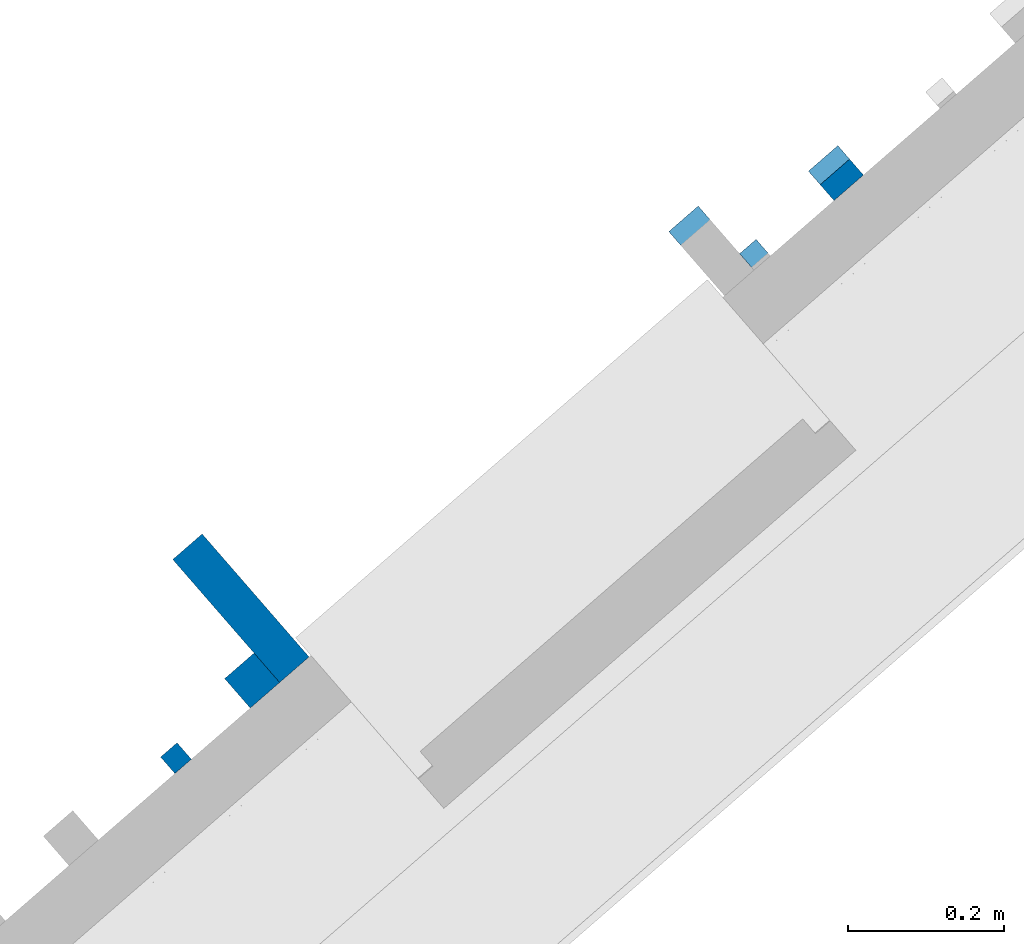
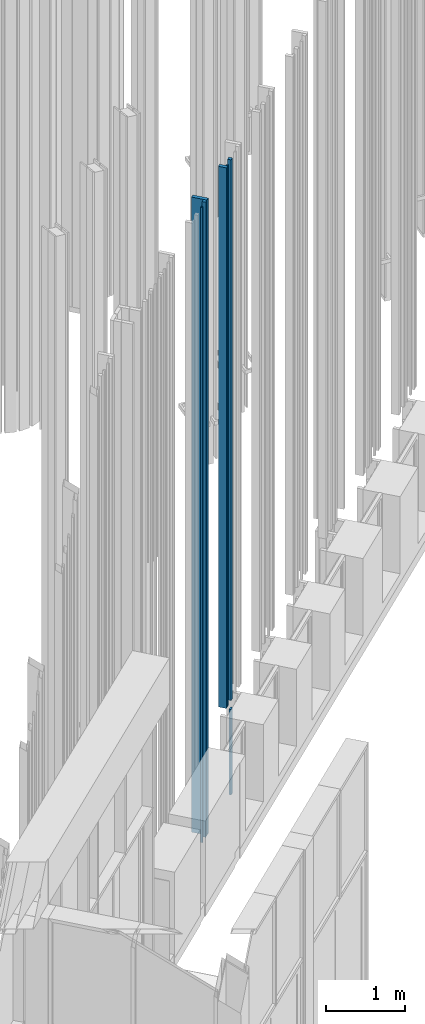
# One storey, part 225 of 390: 7 walls.
"""IFC2X3 building model written with IfcOpenShell, lengths in millimetres."""

from ifc_helpers import new_model, entity, si_unit, converted_unit, derived_unit, money_unit, direction, frame, origin_with_axes, place, context, subcontext, project, spatial, faceted_brep, material, type_object, element, save


model = new_model("IFC2X3")

# Units and contexts
model_context = context("Model", 3, precision=1e-05, world=origin_with_axes(), true_north=direction((0.0, 1.0)))
body_context = subcontext(model_context, "Body", "Model", "MODEL_VIEW")
ifc_project = project(units=[si_unit("LENGTHUNIT", "METRE", prefix="MILLI"), si_unit("AREAUNIT", "SQUARE_METRE"), si_unit("VOLUMEUNIT", "CUBIC_METRE"), converted_unit("PLANEANGLEUNIT", "DEGREE", entity("IfcPlaneAngleMeasure", 0.0174532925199), si_unit("PLANEANGLEUNIT", "RADIAN"), dimensions=[0, 0, 0, 0, 0, 0, 0]), si_unit("SOLIDANGLEUNIT", "STERADIAN"), money_unit("EUR"), converted_unit("TIMEUNIT", "Year", entity("IfcTimeMeasure", 31556926.0), si_unit("TIMEUNIT", "SECOND"), dimensions=[0, 0, 1, 0, 0, 0, 0]), si_unit("MASSUNIT", "GRAM", prefix="KILO"), si_unit("THERMODYNAMICTEMPERATUREUNIT", "DEGREE_CELSIUS"), si_unit("LUMINOUSINTENSITYUNIT", "LUMEN"), si_unit("ENERGYUNIT", "JOULE", prefix="MEGA"), derived_unit("THERMALCONDUCTANCEUNIT", [(si_unit("POWERUNIT", "WATT"), 1), (si_unit("LENGTHUNIT", "METRE"), -1), (si_unit("THERMODYNAMICTEMPERATUREUNIT", "KELVIN"), -1)]), derived_unit("SPECIFICHEATCAPACITYUNIT", [(si_unit("ENERGYUNIT", "JOULE"), 1), (si_unit("MASSUNIT", "GRAM", prefix="KILO"), -1), (si_unit("THERMODYNAMICTEMPERATUREUNIT", "KELVIN"), -1)]), derived_unit("MASSDENSITYUNIT", [(si_unit("MASSUNIT", "GRAM", prefix="KILO"), 1), (si_unit("VOLUMEUNIT", "CUBIC_METRE"), -1)])], contexts=[model_context])

# Site, building, storey
site_placement = place(None, origin_with_axes())
site = spatial("IfcSite", under=ifc_project, at=site_placement, Name="Site", CompositionType="ELEMENT")
building_placement = place(site_placement, origin_with_axes())
building = spatial("IfcBuilding", under=site, at=building_placement, Name="Building", CompositionType="ELEMENT")
storey_placement = place(building_placement, origin_with_axes())
storey = spatial("IfcBuildingStorey", under=building, at=storey_placement, Name="1 korrus", CompositionType="ELEMENT", Elevation=0.0)

# Walls
ifc_material = material(Name="Site specified")
wall_type = type_object("IfcWallType", Name="Puitfassaadi ribistik", PredefinedType="NOTDEFINED")
wall_1_placement = place(storey_placement, frame((139018.617067, 90922.543797, 1468.07770651), z_axis=(0.0, 0.0, 1.0), x_axis=(0.754709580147, 0.656059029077, 0.0)))
element("IfcWall", 1, at=wall_1_placement, inside=storey, type_object=wall_type, material=ifc_material, Name="Site specified", context=body_context, shape_type="Brep", body=[
    faceted_brep([(25.0, 54.5, 8396.92229349), (25.0, 54.5, 0.0), (-25.0, 54.5, 0.0), (-25.0, 54.5, 8396.92229349), (25.0, -54.5, 8396.92229349), (25.0, -54.5, 0.0), (-25.0, -54.5, 0.0), (-25.0, -54.5, 8396.92229349)], [[[0, 1, 2, 3]], [[4, 5, 1, 0]], [[2, 1, 5, 6]], [[3, 2, 6, 7]], [[4, 0, 3, 7]], [[7, 6, 5, 4]]]),
])
wall_2_placement = place(storey_placement, frame((138415.253673, 90464.29865, 0.0), z_axis=(0.0, 0.0, 1.0), x_axis=(0.754709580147, 0.656059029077, 0.0)))
element("IfcWall", 2, at=wall_2_placement, inside=storey, type_object=wall_type, material=ifc_material, Name="Site specified", context=body_context, shape_type="Brep", body=[
    faceted_brep([(25.0, 104.5, 9865.0), (25.0, 104.5, 0.0), (-25.0, 104.5, 0.0), (-25.0, 104.5, 9865.0), (25.0, -104.5, 9865.0), (25.0, -104.5, 0.0), (-25.0, -104.5, 0.0), (-25.0, -104.5, 9865.0)], [[[0, 1, 2, 3]], [[4, 5, 1, 0]], [[2, 1, 5, 6]], [[3, 2, 6, 7]], [[4, 0, 3, 7]], [[7, 6, 5, 4]]]),
])
wall_3_placement = place(storey_placement, frame((139178.34679, 91022.3068438, 1468.07770651), z_axis=(0.0, 0.0, 1.0), x_axis=(0.754709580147, 0.656059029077, 0.0)))
element("IfcWall", 3, at=wall_3_placement, inside=storey, type_object=wall_type, material=ifc_material, Name="Site specified", context=body_context, shape_type="Brep", body=[
    faceted_brep([(25.0, 25.0, 8396.92229349), (25.0, 25.0, 0.0), (-25.0, 25.0, 0.0), (-25.0, 25.0, 8396.92229349), (25.0, -25.0, 8396.92229349), (25.0, -25.0, 0.0), (-25.0, -25.0, 0.0), (-25.0, -25.0, 8396.92229349)], [[[0, 1, 2, 3]], [[4, 5, 1, 0]], [[2, 1, 5, 6]], [[3, 2, 6, 7]], [[4, 0, 3, 7]], [[7, 6, 5, 4]]]),
])
wall_4_placement = place(storey_placement, frame((139074.621132, 90917.5643611, 1468.07770651), z_axis=(0.0, 0.0, 1.0), x_axis=(0.754709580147, 0.656059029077, 0.0)))
element("IfcWall", 4, at=wall_4_placement, inside=storey, type_object=wall_type, material=ifc_material, Name="Site specified", context=body_context, shape_type="Brep", body=[
    faceted_brep([(14.0, 14.0, 8396.92229349), (14.0, 14.0, 0.0), (-14.0, 14.0, 0.0), (-14.0, 14.0, 8396.92229349), (14.0, -14.0, 8396.92229349), (14.0, -14.0, 0.0), (-14.0, -14.0, 0.0), (-14.0, -14.0, 8396.92229349)], [[[0, 1, 2, 3]], [[4, 5, 1, 0]], [[2, 1, 5, 6]], [[3, 2, 6, 7]], [[4, 0, 3, 7]], [[7, 6, 5, 4]]]),
])
wall_5_placement = place(storey_placement, frame((138429.674887, 90371.496287, 0.0), z_axis=(0.0, 0.0, 1.0), x_axis=(0.754709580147, 0.656059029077, 0.0)))
element("IfcWall", 5, at=wall_5_placement, inside=storey, type_object=wall_type, material=ifc_material, Name="Site specified", context=body_context, shape_type="Brep", body=[
    faceted_brep([(25.0, 25.0, 9865.0), (25.0, 25.0, 0.0), (-25.0, 25.0, 0.0), (-25.0, 25.0, 9865.0), (25.0, -25.0, 9865.0), (25.0, -25.0, 0.0), (-25.0, -25.0, 0.0), (-25.0, -25.0, 9865.0)], [[[0, 1, 2, 3]], [[4, 5, 1, 0]], [[2, 1, 5, 6]], [[3, 2, 6, 7]], [[4, 0, 3, 7]], [[7, 6, 5, 4]]]),
])
wall_6_placement = place(storey_placement, frame((138331.986905, 90272.0022765, 0.0), z_axis=(0.0, 0.0, 1.0), x_axis=(0.754709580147, 0.656059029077, 0.0)))
element("IfcWall", 6, at=wall_6_placement, inside=storey, type_object=wall_type, material=ifc_material, Name="Site specified", context=body_context, shape_type="Brep", body=[
    faceted_brep([(14.0, 14.0, 9865.0), (14.0, 14.0, 0.0), (-14.0, 14.0, 0.0), (-14.0, 14.0, 9865.0), (14.0, -14.0, 9865.0), (14.0, -14.0, 0.0), (-14.0, -14.0, 0.0), (-14.0, -14.0, 9865.0)], [[[0, 1, 2, 3]], [[4, 5, 1, 0]], [[2, 1, 5, 6]], [[3, 2, 6, 7]], [[4, 0, 3, 7]], [[7, 6, 5, 4]]]),
])
wall_7_placement = place(storey_placement, frame((139193.436148, 91004.9485232, 0.0), z_axis=(0.0, 0.0, 1.0), x_axis=(0.754709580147, 0.656059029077, 0.0)))
element("IfcWall", 7, at=wall_7_placement, inside=storey, type_object=wall_type, material=ifc_material, Name="Site specified", context=body_context, shape_type="Brep", body=[
    faceted_brep([(-25.0, 25.0, 1330.0), (-25.0, -2.0059258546, 1330.0), (25.0000000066, -2.00604427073, 1330.0), (25.0, 25.0, 1330.0), (-25.0, 25.0, 0.0), (-25.0, -2.00873718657, 0.0), (25.0, -2.00885039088, 0.0), (25.0, 25.0, 0.0)], [[[0, 1, 2, 3]], [[4, 5, 1, 0]], [[5, 6, 2, 1]], [[3, 2, 6, 7]], [[0, 3, 7, 4]], [[7, 6, 5, 4]]]),
])

save(model, "model.ifc")
